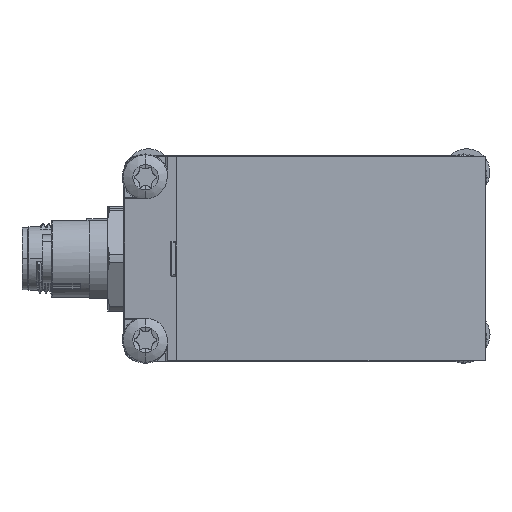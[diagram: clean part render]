
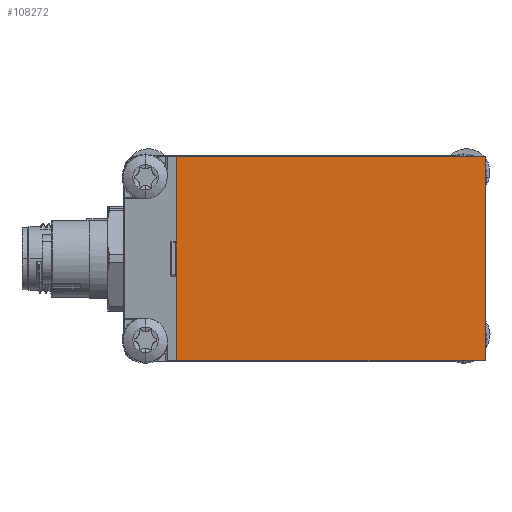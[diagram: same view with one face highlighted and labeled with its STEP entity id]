
A CAD part, front view. The second image highlights one B-rep face of the part: STEP entity #108272.
In plain terms, the highlighted planar face has unit normal (0, -1, 0).
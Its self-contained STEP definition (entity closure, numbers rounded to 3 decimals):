
#4414 = EDGE_LOOP ( 'NONE', ( #51067, #50929, #25282, #8641 ) ) ;
#6429 = AXIS2_PLACEMENT_3D ( 'NONE', #61775, #139558, #72986 ) ;
#8641 = ORIENTED_EDGE ( 'NONE', *, *, #135532, .T. ) ;
#12660 = LINE ( 'NONE', #64947, #71809 ) ;
#17068 = PLANE ( 'NONE',  #6429 ) ;
#19759 = DIRECTION ( 'NONE',  ( -1., 0., 0. ) ) ;
#20555 = VERTEX_POINT ( 'NONE', #60737 ) ;
#25282 = ORIENTED_EDGE ( 'NONE', *, *, #51364, .F. ) ;
#40304 = CARTESIAN_POINT ( 'NONE',  ( -53., -17.5, -17.5 ) ) ;
#43613 = VERTEX_POINT ( 'NONE', #65151 ) ;
#50929 = ORIENTED_EDGE ( 'NONE', *, *, #102867, .F. ) ;
#51067 = ORIENTED_EDGE ( 'NONE', *, *, #117733, .T. ) ;
#51313 = VECTOR ( 'NONE', #86697, 1000. ) ;
#51364 = EDGE_CURVE ( 'NONE', #112470, #20555, #140020, .T. ) ;
#52354 = CARTESIAN_POINT ( 'NONE',  ( 1.414, -17.5, 17.5 ) ) ;
#60737 = CARTESIAN_POINT ( 'NONE',  ( 0., -17.5, -17.5 ) ) ;
#61775 = CARTESIAN_POINT ( 'NONE',  ( 0., -17.5, 17.5 ) ) ;
#63527 = DIRECTION ( 'NONE',  ( -1., 0., 0. ) ) ;
#64947 = CARTESIAN_POINT ( 'NONE',  ( 1.414, -17.5, -17.5 ) ) ;
#65151 = CARTESIAN_POINT ( 'NONE',  ( -53., -17.5, 17.5 ) ) ;
#69580 = LINE ( 'NONE', #52354, #99089 ) ;
#71809 = VECTOR ( 'NONE', #19759, 1000. ) ;
#72986 = DIRECTION ( 'NONE',  ( 0., 0., 1. ) ) ;
#75575 = CARTESIAN_POINT ( 'NONE',  ( 0., -17.5, 17.5 ) ) ;
#79814 = CARTESIAN_POINT ( 'NONE',  ( -53., -17.5, 17.5 ) ) ;
#86697 = DIRECTION ( 'NONE',  ( 0., 0., -1. ) ) ;
#90824 = VERTEX_POINT ( 'NONE', #40304 ) ;
#99089 = VECTOR ( 'NONE', #63527, 1000. ) ;
#102867 = EDGE_CURVE ( 'NONE', #20555, #90824, #12660, .T. ) ;
#108272 = ADVANCED_FACE ( 'NONE', ( #123154 ), #17068, .F. ) ;
#109519 = VECTOR ( 'NONE', #113694, 1000. ) ;
#112470 = VERTEX_POINT ( 'NONE', #116602 ) ;
#113694 = DIRECTION ( 'NONE',  ( 0., 0., -1. ) ) ;
#116602 = CARTESIAN_POINT ( 'NONE',  ( 0., -17.5, 17.5 ) ) ;
#117733 = EDGE_CURVE ( 'NONE', #43613, #90824, #135716, .T. ) ;
#123154 = FACE_OUTER_BOUND ( 'NONE', #4414, .T. ) ;
#135532 = EDGE_CURVE ( 'NONE', #112470, #43613, #69580, .T. ) ;
#135716 = LINE ( 'NONE', #79814, #109519 ) ;
#139558 = DIRECTION ( 'NONE',  ( 0., 1., 0. ) ) ;
#140020 = LINE ( 'NONE', #75575, #51313 ) ;
